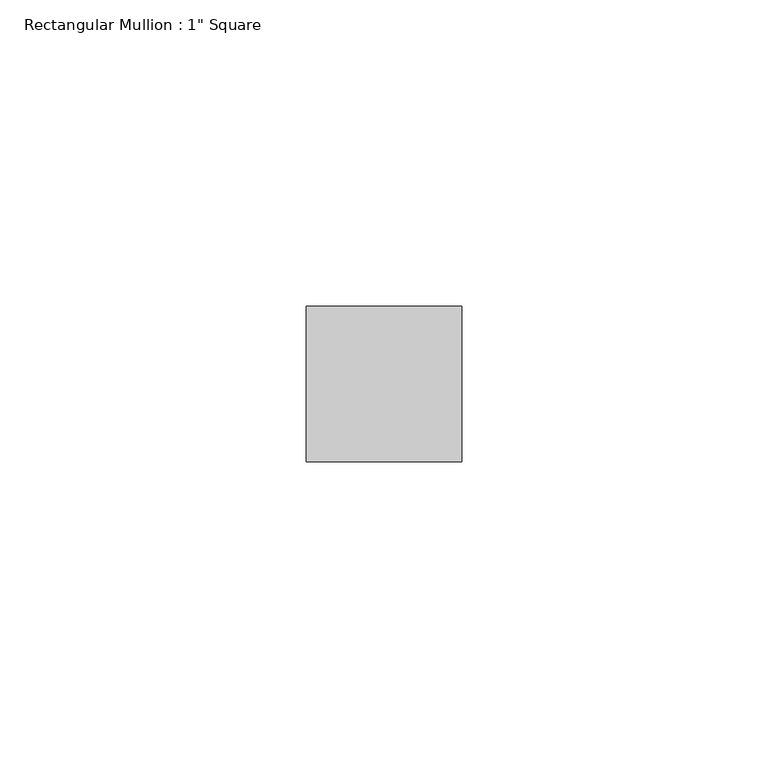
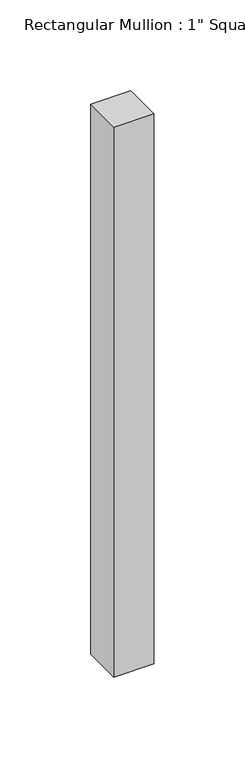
"""IFC4 building model written with IfcOpenShell, lengths in millimetres: member geometry."""

from ifc_helpers import new_model, si_unit, frame, origin, place, context, project, spatial, polyline, outline, extrude, source, transform, mapped, element, save


def member_707bc92b(model_context):
    return source(origin(), model_context, "Body", "SweptSolid", [
        extrude(outline(polyline([(12.7, 12.7), (12.7, -12.7), (-12.7, -12.7), (-12.7, 12.7), (12.7, 12.7)])), frame((0.0, 0.0, -369.4169768), z_axis=(0.0, 0.0, 1.0), x_axis=(1.0, 0.0, 0.0)), (0.0, 0.0, 1.0), 369.4169768),
    ])


if __name__ == "__main__":
    model = new_model("IFC4")
    model_context = context("Model", 3, world=origin())
    ifc_project = project(units=[si_unit("LENGTHUNIT", "METRE", prefix="MILLI")], contexts=[model_context])
    site = spatial("IfcSite", under=ifc_project)
    building = spatial("IfcBuilding", under=site)
    placement = place(None, origin())
    member_shape = member_707bc92b(model_context)
    element("IfcMember", 1, ObjectType="Rectangular Mullion : 1\" Square", at=placement, inside=building, context=model_context, shape_type="MappedRepresentation", body=[
        mapped(member_shape, transform((0.0, 0.0, 0.0), x_axis=(1.0, 0.0, 0.0), y_axis=(0.0, 1.0, 0.0), z_axis=(0.0, 0.0, 1.0))),
    ])
    save(model, "model.ifc")
